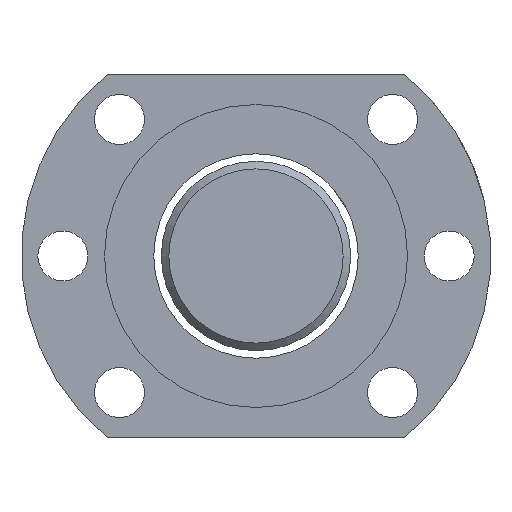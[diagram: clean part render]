
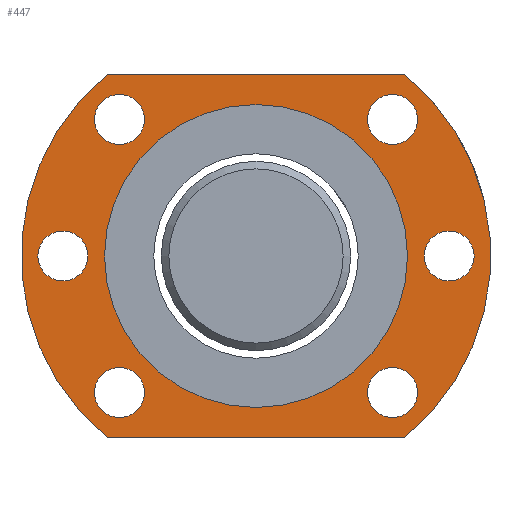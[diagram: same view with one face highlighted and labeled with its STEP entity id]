
A CAD part, left-side view. The second image highlights one B-rep face of the part: STEP entity #447.
In plain terms, the highlighted planar face has unit normal (-1, 0, 0).
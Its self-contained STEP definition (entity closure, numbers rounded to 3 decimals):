
#63=LINE('',#709,#71);
#68=LINE('',#750,#76);
#71=VECTOR('',#591,1000.);
#76=VECTOR('',#604,1000.);
#81=PLANE('',#518);
#121=ORIENTED_EDGE('',*,*,#213,.F.);
#122=ORIENTED_EDGE('',*,*,#205,.T.);
#123=ORIENTED_EDGE('',*,*,#197,.T.);
#124=ORIENTED_EDGE('',*,*,#211,.T.);
#125=ORIENTED_EDGE('',*,*,#208,.T.);
#126=ORIENTED_EDGE('',*,*,#186,.T.);
#127=ORIENTED_EDGE('',*,*,#194,.F.);
#128=ORIENTED_EDGE('',*,*,#196,.F.);
#129=ORIENTED_EDGE('',*,*,#188,.T.);
#130=ORIENTED_EDGE('',*,*,#192,.F.);
#131=ORIENTED_EDGE('',*,*,#190,.T.);
#186=EDGE_CURVE('',#234,#234,#274,.T.);
#188=EDGE_CURVE('',#236,#236,#276,.T.);
#190=EDGE_CURVE('',#238,#238,#278,.T.);
#192=EDGE_CURVE('',#240,#240,#280,.T.);
#194=EDGE_CURVE('',#242,#242,#282,.T.);
#196=EDGE_CURVE('',#244,#244,#284,.T.);
#197=EDGE_CURVE('',#245,#246,#63,.T.);
#205=EDGE_CURVE('',#253,#245,#285,.T.);
#208=EDGE_CURVE('',#255,#253,#68,.T.);
#211=EDGE_CURVE('',#246,#255,#287,.T.);
#213=EDGE_CURVE('',#257,#257,#289,.T.);
#234=VERTEX_POINT('',#682);
#236=VERTEX_POINT('',#687);
#238=VERTEX_POINT('',#692);
#240=VERTEX_POINT('',#697);
#242=VERTEX_POINT('',#702);
#244=VERTEX_POINT('',#707);
#245=VERTEX_POINT('',#710);
#246=VERTEX_POINT('',#711);
#253=VERTEX_POINT('',#745);
#255=VERTEX_POINT('',#751);
#257=VERTEX_POINT('',#760);
#274=CIRCLE('',#494,3.3);
#276=CIRCLE('',#497,3.3);
#278=CIRCLE('',#500,3.3);
#280=CIRCLE('',#503,3.3);
#282=CIRCLE('',#506,3.3);
#284=CIRCLE('',#509,3.3);
#285=CIRCLE('',#512,31.);
#287=CIRCLE('',#516,31.);
#289=CIRCLE('',#519,20.);
#319=EDGE_LOOP('',(#121));
#320=EDGE_LOOP('',(#122,#123,#124,#125));
#321=EDGE_LOOP('',(#126));
#322=EDGE_LOOP('',(#127));
#323=EDGE_LOOP('',(#128));
#324=EDGE_LOOP('',(#129));
#325=EDGE_LOOP('',(#130));
#326=EDGE_LOOP('',(#131));
#379=FACE_BOUND('',#319,.T.);
#380=FACE_BOUND('',#320,.T.);
#381=FACE_BOUND('',#321,.T.);
#382=FACE_BOUND('',#322,.T.);
#383=FACE_BOUND('',#323,.T.);
#384=FACE_BOUND('',#324,.T.);
#385=FACE_BOUND('',#325,.T.);
#386=FACE_BOUND('',#326,.T.);
#447=ADVANCED_FACE('',(#379,#380,#381,#382,#383,#384,#385,#386),#81,.T.);
#494=AXIS2_PLACEMENT_3D('',#681,#557,#558);
#497=AXIS2_PLACEMENT_3D('',#686,#563,#564);
#500=AXIS2_PLACEMENT_3D('',#691,#569,#570);
#503=AXIS2_PLACEMENT_3D('',#696,#575,#576);
#506=AXIS2_PLACEMENT_3D('',#701,#581,#582);
#509=AXIS2_PLACEMENT_3D('',#706,#587,#588);
#512=AXIS2_PLACEMENT_3D('',#744,#597,#598);
#516=AXIS2_PLACEMENT_3D('',#756,#609,#610);
#518=AXIS2_PLACEMENT_3D('',#758,#613,#614);
#519=AXIS2_PLACEMENT_3D('',#759,#615,#616);
#557=DIRECTION('',(1.,0.,0.));
#558=DIRECTION('',(0.,0.,1.));
#563=DIRECTION('',(1.,0.,0.));
#564=DIRECTION('',(0.,0.,1.));
#569=DIRECTION('',(1.,0.,0.));
#570=DIRECTION('',(0.,0.,1.));
#575=DIRECTION('',(-1.,0.,0.));
#576=DIRECTION('',(0.,0.,1.));
#581=DIRECTION('',(-1.,0.,0.));
#582=DIRECTION('',(0.,0.,1.));
#587=DIRECTION('',(-1.,0.,0.));
#588=DIRECTION('',(0.,0.,1.));
#591=DIRECTION('',(0.,1.,0.));
#597=DIRECTION('',(-1.,0.,0.));
#598=DIRECTION('',(0.,0.,-1.));
#604=DIRECTION('',(0.,-1.,0.));
#609=DIRECTION('',(-1.,0.,0.));
#610=DIRECTION('',(0.,0.,-1.));
#613=DIRECTION('',(-1.,0.,0.));
#614=DIRECTION('',(0.,0.,1.));
#615=DIRECTION('',(-1.,0.,0.));
#616=DIRECTION('',(0.,0.,-1.));
#681=CARTESIAN_POINT('',(-0.225,-55.152,25.78));
#682=CARTESIAN_POINT('',(-0.225,-55.152,29.08));
#686=CARTESIAN_POINT('',(-0.225,-62.621,7.749));
#687=CARTESIAN_POINT('',(-0.225,-62.621,11.049));
#691=CARTESIAN_POINT('',(-0.225,-55.152,-10.282));
#692=CARTESIAN_POINT('',(-0.225,-55.152,-6.982));
#696=CARTESIAN_POINT('',(-0.225,-19.089,-10.282));
#697=CARTESIAN_POINT('',(-0.225,-19.089,-6.982));
#701=CARTESIAN_POINT('',(-0.225,-19.089,25.78));
#702=CARTESIAN_POINT('',(-0.225,-19.089,29.08));
#706=CARTESIAN_POINT('',(-0.225,-11.621,7.749));
#707=CARTESIAN_POINT('',(-0.225,-11.621,11.049));
#709=CARTESIAN_POINT('',(-0.225,-56.742,31.749));
#710=CARTESIAN_POINT('',(-0.225,-56.742,31.749));
#711=CARTESIAN_POINT('',(-0.225,-17.499,31.749));
#744=CARTESIAN_POINT('',(-0.225,-37.121,7.749));
#745=CARTESIAN_POINT('',(-0.225,-56.742,-16.251));
#750=CARTESIAN_POINT('',(-0.225,-17.499,-16.251));
#751=CARTESIAN_POINT('',(-0.225,-17.499,-16.251));
#756=CARTESIAN_POINT('',(-0.225,-37.121,7.749));
#758=CARTESIAN_POINT('',(-0.225,-37.121,7.749));
#759=CARTESIAN_POINT('',(-0.225,-37.121,7.749));
#760=CARTESIAN_POINT('',(-0.225,-37.121,-12.251));
